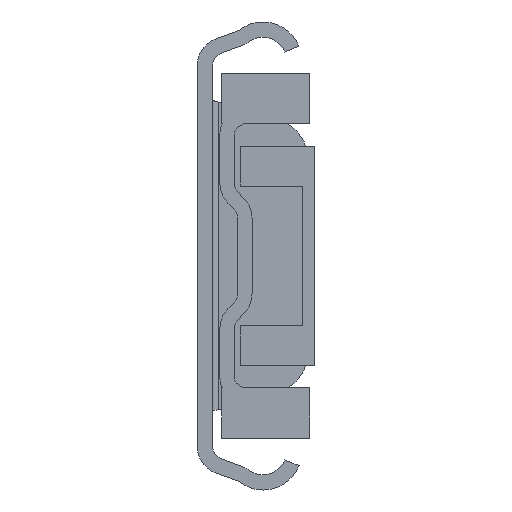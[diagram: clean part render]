
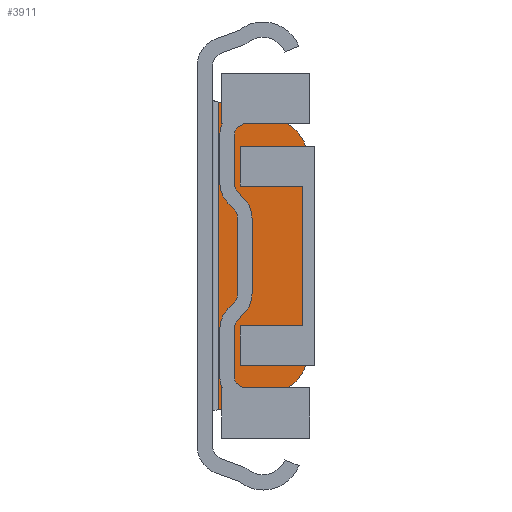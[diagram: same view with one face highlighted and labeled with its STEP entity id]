
A CAD part, front view. The second image highlights one B-rep face of the part: STEP entity #3911.
In plain terms, the highlighted planar face has unit normal (0, -1, 0).
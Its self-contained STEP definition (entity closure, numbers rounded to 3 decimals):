
#248=CIRCLE('',#4634,8.);
#249=CIRCLE('',#4635,8.);
#1133=ORIENTED_EDGE('',*,*,#1845,.F.);
#1134=ORIENTED_EDGE('',*,*,#1846,.F.);
#1135=ORIENTED_EDGE('',*,*,#1847,.F.);
#1136=ORIENTED_EDGE('',*,*,#1848,.F.);
#1137=ORIENTED_EDGE('',*,*,#1849,.F.);
#1138=ORIENTED_EDGE('',*,*,#1850,.F.);
#1845=EDGE_CURVE('',#2276,#2277,#2676,.T.);
#1846=EDGE_CURVE('',#2278,#2276,#248,.F.);
#1847=EDGE_CURVE('',#2279,#2278,#2677,.T.);
#1848=EDGE_CURVE('',#2280,#2279,#249,.F.);
#1849=EDGE_CURVE('',#2281,#2280,#2678,.T.);
#1850=EDGE_CURVE('',#2277,#2281,#2679,.T.);
#2276=VERTEX_POINT('',#6724);
#2277=VERTEX_POINT('',#6725);
#2278=VERTEX_POINT('',#6727);
#2279=VERTEX_POINT('',#6729);
#2280=VERTEX_POINT('',#6731);
#2281=VERTEX_POINT('',#6733);
#2676=LINE('',#6723,#3059);
#2677=LINE('',#6728,#3060);
#2678=LINE('',#6732,#3061);
#2679=LINE('',#6734,#3062);
#3059=VECTOR('',#5567,1000.);
#3060=VECTOR('',#5570,1000.);
#3061=VECTOR('',#5573,1000.);
#3062=VECTOR('',#5574,1000.);
#3326=EDGE_LOOP('',(#1133,#1134,#1135,#1136,#1137,#1138));
#3587=FACE_BOUND('',#3326,.T.);
#3748=PLANE('',#4633);
#3911=ADVANCED_FACE('',(#3587),#3748,.T.);
#4633=AXIS2_PLACEMENT_3D('',#6722,#5565,#5566);
#4634=AXIS2_PLACEMENT_3D('',#6726,#5568,#5569);
#4635=AXIS2_PLACEMENT_3D('',#6730,#5571,#5572);
#5565=DIRECTION('',(0.,-1.,0.));
#5566=DIRECTION('',(0.,0.,-1.));
#5567=DIRECTION('',(-0.966,0.,-0.259));
#5568=DIRECTION('',(0.,-1.,0.));
#5569=DIRECTION('',(0.,0.,-1.));
#5570=DIRECTION('',(0.,0.,-1.));
#5571=DIRECTION('',(0.,-1.,0.));
#5572=DIRECTION('',(0.,0.,-1.));
#5573=DIRECTION('',(0.966,0.,-0.259));
#5574=DIRECTION('',(0.,0.,1.));
#6722=CARTESIAN_POINT('',(12.9,1013.5,14.965));
#6723=CARTESIAN_POINT('',(22.316,1013.5,-20.174));
#6724=CARTESIAN_POINT('',(12.471,1013.5,-22.812));
#6725=CARTESIAN_POINT('',(3.5,1013.5,-25.216));
#6726=CARTESIAN_POINT('',(10.4,1013.5,-15.085));
#6727=CARTESIAN_POINT('',(18.4,1013.5,-15.085));
#6728=CARTESIAN_POINT('',(18.4,1013.5,14.965));
#6729=CARTESIAN_POINT('',(18.4,1013.5,15.085));
#6730=CARTESIAN_POINT('',(10.4,1013.5,15.085));
#6731=CARTESIAN_POINT('',(12.471,1013.5,22.812));
#6732=CARTESIAN_POINT('',(14.833,1013.5,22.179));
#6733=CARTESIAN_POINT('',(3.5,1013.5,25.216));
#6734=CARTESIAN_POINT('',(3.5,1013.5,-25.766));
